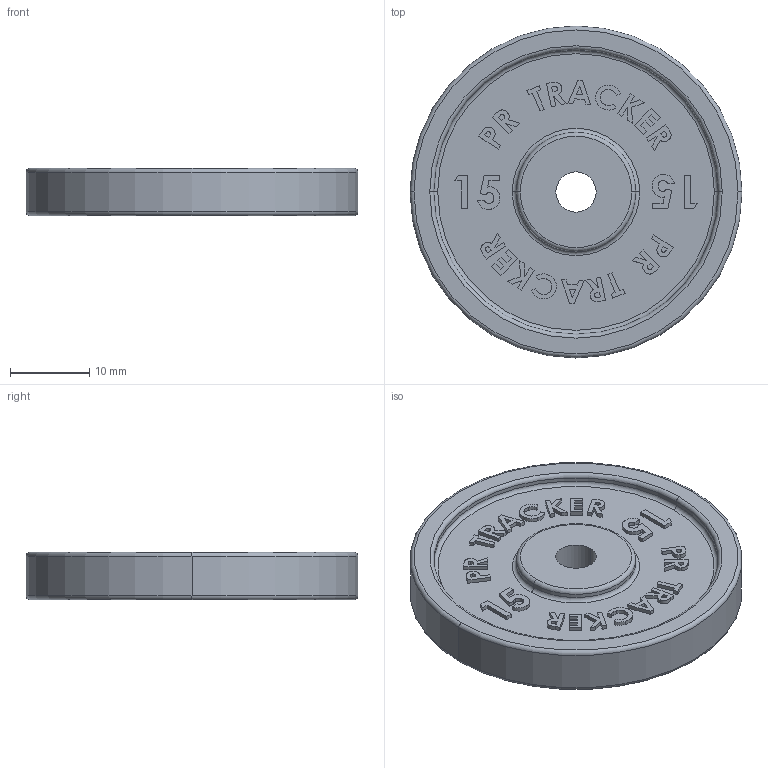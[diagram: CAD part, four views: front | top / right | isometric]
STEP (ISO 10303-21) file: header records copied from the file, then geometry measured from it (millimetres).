
FILE_DESCRIPTION (( 'STEP AP214' ), '1' );
FILE_NAME ('15.STEP', '2024-06-19T14:17:09', ( '' ), ( '' ), 'SwSTEP 2.0', 'SolidWorks 2022', '' );
FILE_SCHEMA (( 'AUTOMOTIVE_DESIGN' ));
Length unit declared in the file: millimetre
Products named in the file (1): 15
Bounding box: 42 x 42 x 6 mm (x, y, z)
Volume: 5743.6 mm3; surface area: 4201.8 mm2
Topology: 1 solids, 1 shells, 626 faces, 1648 edges, 1092 vertices
Faces by surface type: plane 458, bspline 136, torus 20, cylinder 12
Entity records: 27246 total; most frequent: CARTESIAN_POINT 12591, ORIENTED_EDGE 3296, DIRECTION 2422, EDGE_CURVE 1648, LINE 1312, VECTOR 1312, VERTEX_POINT 1092, EDGE_LOOP 696
